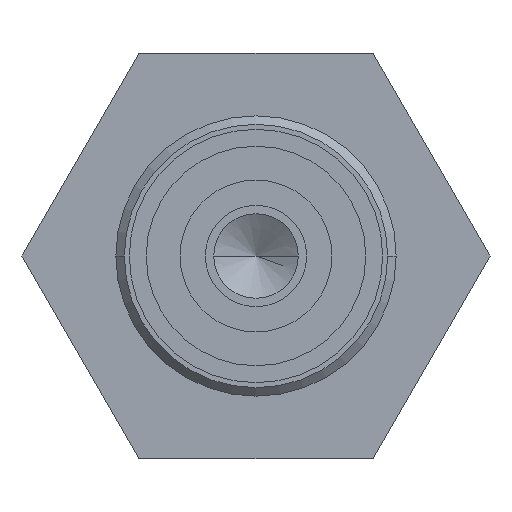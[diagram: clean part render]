
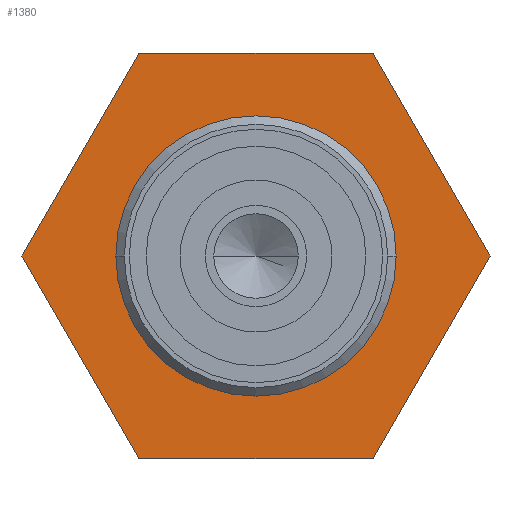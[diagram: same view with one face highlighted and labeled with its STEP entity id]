
A CAD part, front view. The second image highlights one B-rep face of the part: STEP entity #1380.
In plain terms, the highlighted planar face has unit normal (0, -1, 0).
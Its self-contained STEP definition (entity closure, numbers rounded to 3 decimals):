
#214=CARTESIAN_POINT('',(0.,57.,0.));
#215=DIRECTION('',(0.,-1.,0.));
#216=DIRECTION('',(-1.,0.,0.));
#217=AXIS2_PLACEMENT_3D('',#214,#215,#216);
#228=DIRECTION('',(1.,0.,0.));
#229=VECTOR('',#228,13.856);
#230=CARTESIAN_POINT('',(-6.928,57.,12.));
#231=LINE('',#230,#229);
#232=DIRECTION('',(0.5,0.,-0.866));
#233=VECTOR('',#232,13.856);
#234=CARTESIAN_POINT('',(6.928,57.,12.));
#235=LINE('',#234,#233);
#236=DIRECTION('',(-0.5,0.,-0.866));
#237=VECTOR('',#236,13.856);
#238=CARTESIAN_POINT('',(13.856,57.,0.));
#239=LINE('',#238,#237);
#240=DIRECTION('',(-1.,0.,0.));
#241=VECTOR('',#240,13.856);
#242=CARTESIAN_POINT('',(6.928,57.,-12.));
#243=LINE('',#242,#241);
#244=DIRECTION('',(-0.5,0.,0.866));
#245=VECTOR('',#244,13.856);
#246=CARTESIAN_POINT('',(-6.928,57.,-12.));
#247=LINE('',#246,#245);
#248=DIRECTION('',(0.5,0.,0.866));
#249=VECTOR('',#248,13.856);
#250=CARTESIAN_POINT('',(-13.856,57.,0.));
#251=LINE('',#250,#249);
#900=CARTESIAN_POINT('',(0.,57.,0.));
#901=DIRECTION('',(0.,-1.,0.));
#902=DIRECTION('',(1.,0.,0.));
#903=AXIS2_PLACEMENT_3D('',#900,#901,#902);
#969=CARTESIAN_POINT('',(-6.928,57.,12.));
#970=CARTESIAN_POINT('',(6.928,57.,12.));
#971=VERTEX_POINT('',#969);
#972=VERTEX_POINT('',#970);
#973=CARTESIAN_POINT('',(13.856,57.,0.));
#974=VERTEX_POINT('',#973);
#975=CARTESIAN_POINT('',(6.928,57.,-12.));
#976=VERTEX_POINT('',#975);
#977=CARTESIAN_POINT('',(-6.928,57.,-12.));
#978=VERTEX_POINT('',#977);
#979=CARTESIAN_POINT('',(-13.856,57.,0.));
#980=VERTEX_POINT('',#979);
#993=CARTESIAN_POINT('',(8.3,57.,0.));
#994=CARTESIAN_POINT('',(-8.3,57.,0.));
#995=VERTEX_POINT('',#993);
#996=VERTEX_POINT('',#994);
#1356=CARTESIAN_POINT('',(0.,57.,0.));
#1357=DIRECTION('',(0.,1.,0.));
#1358=DIRECTION('',(1.,0.,0.));
#1359=AXIS2_PLACEMENT_3D('',#1356,#1357,#1358);
#1360=PLANE('',#1359);
#1362=ORIENTED_EDGE('',*,*,#1361,.T.);
#1364=ORIENTED_EDGE('',*,*,#1363,.T.);
#1366=ORIENTED_EDGE('',*,*,#1365,.T.);
#1368=ORIENTED_EDGE('',*,*,#1367,.T.);
#1370=ORIENTED_EDGE('',*,*,#1369,.T.);
#1372=ORIENTED_EDGE('',*,*,#1371,.T.);
#1373=EDGE_LOOP('',(#1362,#1364,#1366,#1368,#1370,#1372));
#1374=FACE_OUTER_BOUND('',#1373,.F.);
#1376=ORIENTED_EDGE('',*,*,#1375,.T.);
#1377=ORIENTED_EDGE('',*,*,#1346,.T.);
#1378=EDGE_LOOP('',(#1376,#1377));
#1379=FACE_BOUND('',#1378,.F.);
#218=CIRCLE('',#217,8.3);
#904=CIRCLE('',#903,8.3);
#1346=EDGE_CURVE('',#996,#995,#218,.T.);
#1361=EDGE_CURVE('',#971,#972,#231,.T.);
#1363=EDGE_CURVE('',#972,#974,#235,.T.);
#1365=EDGE_CURVE('',#974,#976,#239,.T.);
#1367=EDGE_CURVE('',#976,#978,#243,.T.);
#1369=EDGE_CURVE('',#978,#980,#247,.T.);
#1371=EDGE_CURVE('',#980,#971,#251,.T.);
#1375=EDGE_CURVE('',#995,#996,#904,.T.);
#1380=ADVANCED_FACE('',(#1374,#1379),#1360,.F.);
